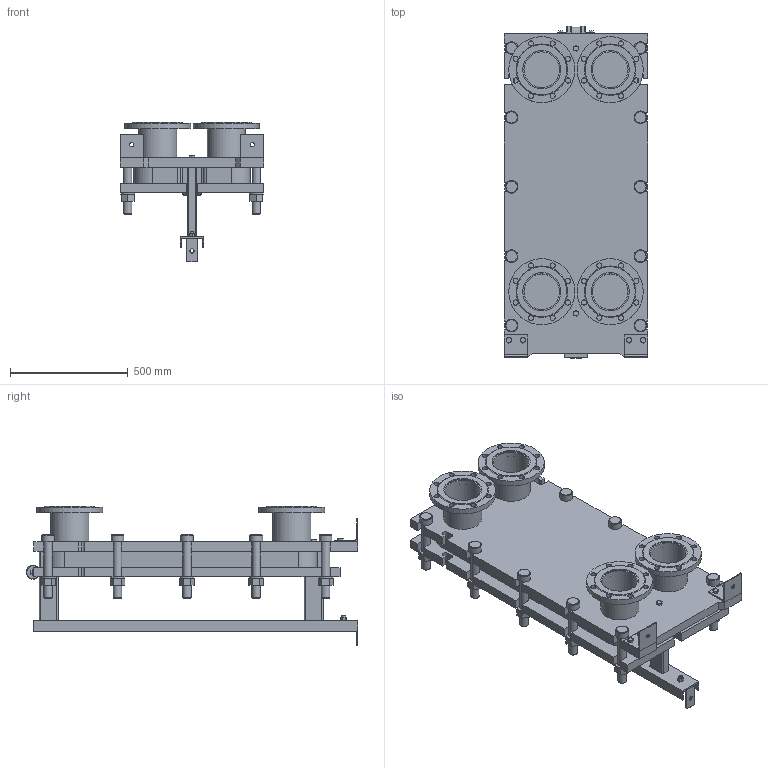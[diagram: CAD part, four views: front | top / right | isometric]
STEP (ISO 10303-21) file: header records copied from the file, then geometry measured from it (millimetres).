
FILE_DESCRIPTION(/* description */ (''),/* implementation_level */ '2;1');
FILE_NAME(/* name */ 'C:\Users\zhuro\Desktop\ENCO\TO\ЭН-041\ЭН-0,5-041-20-1.stp',/* time_stamp */ '2022-06-06T10:49:43+03:00',/* author */ ('zhuro'),/* organization */ (''),/* preprocessor_version */ 'ST-DEVELOPER v18.1',/* originating_system */ 'Autodesk Inventor 2022',/* authorisation */ '');
FILE_SCHEMA (('AUTOMOTIVE_DESIGN { 1 0 10303 214 3 1 1 }'));
Length unit declared in the file: millimetre
Products named in the file (1): ЭН-0,5-041-20-1
Bounding box: 610 x 1406.5 x 590 mm (x, y, z)
Volume: 113659519.4 mm3; surface area: 7260576.7 mm2
Topology: 52 solids, 52 shells, 711 faces, 1696 edges, 1094 vertices
Faces by surface type: plane 487, cylinder 177, cone 41, torus 6
Full cylindrical faces by diameter (mm): 8 x4, 10 x2, 16 x8, 18 x3, 22 x32, 36 x24, 50 x1, 54 x10, 60 x12, 151 x4, 161 x8, 280 x4
Entity records: 22667 total; most frequent: CARTESIAN_POINT 5230, DIRECTION 3644, ORIENTED_EDGE 3392, EDGE_CURVE 1696, AXIS2_PLACEMENT_3D 1272, LINE 1100, VECTOR 1100, VERTEX_POINT 1094
